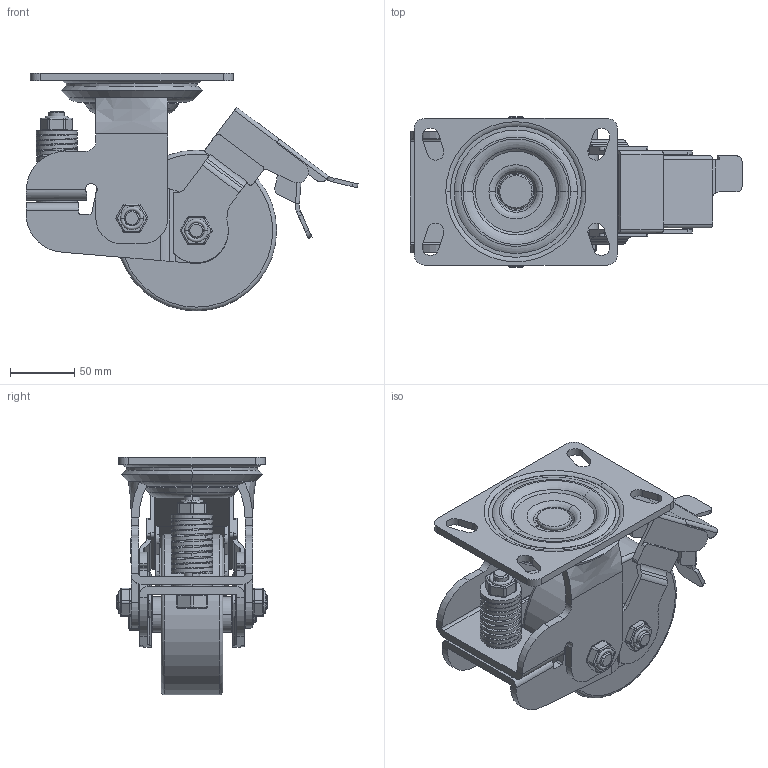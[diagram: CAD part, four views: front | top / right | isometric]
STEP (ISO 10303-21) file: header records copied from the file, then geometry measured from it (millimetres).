
FILE_DESCRIPTION(/* description */ (''),/* implementation_level */ '2;1');
FILE_NAME(/* name */ '45C33_5_F.stp',/* time_stamp */ '2022-10-07T11:05:58+08:00',/* author */ (''),/* organization */ (''),/* preprocessor_version */ 'ST-DEVELOPER v14',/* originating_system */ 'SIEMENS PLM Software NX 8.0',/* authorisation */ '');
FILE_SCHEMA (('AUTOMOTIVE_DESIGN { 1 0 10303 214 3 1 1 1 }'));
Length unit declared in the file: millimetre
Products named in the file (1): 45C33_5_F
Bounding box: 258.17 x 117.38 x 185 mm (x, y, z)
Volume: 1168856.7 mm3; surface area: 234724.8 mm2
Topology: 1 solids, 4 shells, 866 faces, 2270 edges, 1450 vertices
Faces by surface type: plane 411, cylinder 285, torus 58, bspline 56, cone 54, extrusion 2
Full cylindrical faces by diameter (mm): 125 x1
Entity records: 31695 total; most frequent: CARTESIAN_POINT 10368, ORIENTED_EDGE 4534, DIRECTION 4433, EDGE_CURVE 2267, AXIS2_PLACEMENT_3D 1655, VERTEX_POINT 1450, VECTOR 1123, LINE 1121
